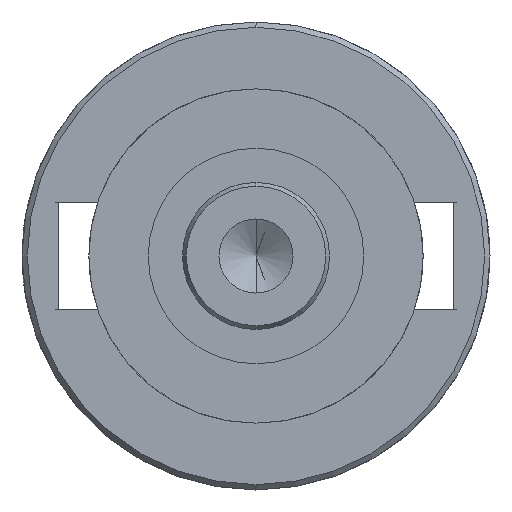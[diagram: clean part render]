
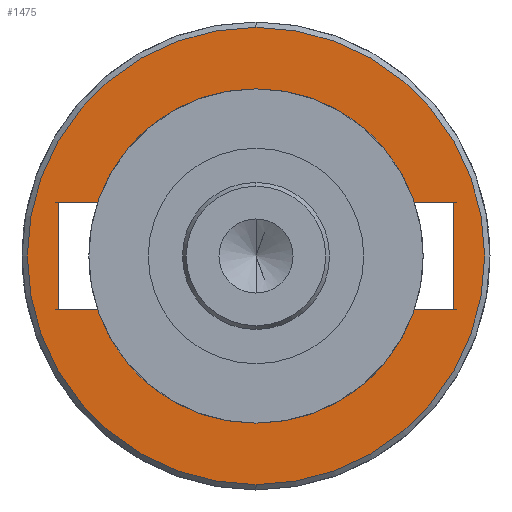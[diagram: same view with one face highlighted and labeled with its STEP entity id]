
A CAD part, left-side view. The second image highlights one B-rep face of the part: STEP entity #1475.
In plain terms, the highlighted planar face has unit normal (-1, 0, 0).
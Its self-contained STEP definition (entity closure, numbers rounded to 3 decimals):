
#129 = CARTESIAN_POINT ( 'NONE',  ( 9.976, 0., -25. ) ) ;
#151 = CARTESIAN_POINT ( 'NONE',  ( 9.976, 23.668, 8.05 ) ) ;
#152 = DIRECTION ( 'NONE',  ( 0., 0., 1. ) ) ;
#153 = DIRECTION ( 'NONE',  ( -1., 0., 0. ) ) ;
#154 = CARTESIAN_POINT ( 'NONE',  ( 9.976, 0., 0. ) ) ;
#155 = AXIS2_PLACEMENT_3D ( 'NONE', #154, #153, #152 ) ;
#156 = CIRCLE ( 'NONE', #155, 25. ) ;
#157 = CARTESIAN_POINT ( 'NONE',  ( 9.976, 0., 25. ) ) ;
#197 = CARTESIAN_POINT ( 'NONE',  ( 9.976, 0., 0. ) ) ;
#241 = CARTESIAN_POINT ( 'NONE',  ( 9.976, 0., 34.2 ) ) ;
#242 = DIRECTION ( 'NONE',  ( 0., 0., 1. ) ) ;
#243 = DIRECTION ( 'NONE',  ( -1., 0., 0. ) ) ;
#244 = AXIS2_PLACEMENT_3D ( 'NONE', #197, #243, #242 ) ;
#245 = CIRCLE ( 'NONE', #244, 34.2 ) ;
#248 = CARTESIAN_POINT ( 'NONE',  ( 9.976, 0., 0. ) ) ;
#249 = AXIS2_PLACEMENT_3D ( 'NONE', #248, #311, #310 ) ;
#254 = CIRCLE ( 'NONE', #249, 25. ) ;
#309 = CARTESIAN_POINT ( 'NONE',  ( 9.976, 23.668, -8.05 ) ) ;
#310 = DIRECTION ( 'NONE',  ( 0., 0., 1. ) ) ;
#311 = DIRECTION ( 'NONE',  ( -1., 0., 0. ) ) ;
#426 = CARTESIAN_POINT ( 'NONE',  ( 9.976, 0., -34.2 ) ) ;
#523 = DIRECTION ( 'NONE',  ( 0., 0., -1. ) ) ;
#524 = VECTOR ( 'NONE', #523, 1000. ) ;
#525 = CARTESIAN_POINT ( 'NONE',  ( 9.976, -29.474, 0. ) ) ;
#526 = LINE ( 'NONE', #525, #524 ) ;
#528 = LINE ( 'NONE', #581, #580 ) ;
#529 = DIRECTION ( 'NONE',  ( 0., 0., 1. ) ) ;
#530 = DIRECTION ( 'NONE',  ( -1., 0., 0. ) ) ;
#531 = CARTESIAN_POINT ( 'NONE',  ( 9.976, 25., 0. ) ) ;
#532 = AXIS2_PLACEMENT_3D ( 'NONE', #531, #530, #529 ) ;
#533 = PLANE ( 'NONE',  #532 ) ;
#534 = FACE_BOUND ( 'NONE', #1480, .T. ) ;
#535 = FACE_OUTER_BOUND ( 'NONE', #1476, .T. ) ;
#536 = DIRECTION ( 'NONE',  ( 0., 0., 1. ) ) ;
#537 = DIRECTION ( 'NONE',  ( -1., 0., 0. ) ) ;
#538 = CARTESIAN_POINT ( 'NONE',  ( 9.976, 0., 0. ) ) ;
#539 = AXIS2_PLACEMENT_3D ( 'NONE', #538, #537, #536 ) ;
#540 = CIRCLE ( 'NONE', #539, 25. ) ;
#541 = DIRECTION ( 'NONE',  ( 0., -1., 0. ) ) ;
#542 = VECTOR ( 'NONE', #541, 1000. ) ;
#543 = CARTESIAN_POINT ( 'NONE',  ( 9.976, 25., 8.05 ) ) ;
#544 = LINE ( 'NONE', #543, #542 ) ;
#545 = CARTESIAN_POINT ( 'NONE',  ( 9.976, 29.474, 8.05 ) ) ;
#546 = DIRECTION ( 'NONE',  ( 0., 0., 1. ) ) ;
#547 = VECTOR ( 'NONE', #546, 1000. ) ;
#548 = CARTESIAN_POINT ( 'NONE',  ( 9.976, 29.474, 0. ) ) ;
#549 = LINE ( 'NONE', #548, #547 ) ;
#550 = CARTESIAN_POINT ( 'NONE',  ( 9.976, 29.474, -8.05 ) ) ;
#551 = DIRECTION ( 'NONE',  ( 0., -1., 0. ) ) ;
#552 = VECTOR ( 'NONE', #551, 1000. ) ;
#553 = CARTESIAN_POINT ( 'NONE',  ( 9.976, 25., -8.05 ) ) ;
#554 = LINE ( 'NONE', #553, #552 ) ;
#555 = DIRECTION ( 'NONE',  ( 0., 1., 0. ) ) ;
#556 = VECTOR ( 'NONE', #555, 1000. ) ;
#557 = CARTESIAN_POINT ( 'NONE',  ( 9.976, -25., -8.05 ) ) ;
#558 = LINE ( 'NONE', #557, #556 ) ;
#571 = CARTESIAN_POINT ( 'NONE',  ( 9.976, -23.668, -8.05 ) ) ;
#572 = DIRECTION ( 'NONE',  ( 0., 0., 1. ) ) ;
#573 = DIRECTION ( 'NONE',  ( -1., 0., 0. ) ) ;
#574 = CARTESIAN_POINT ( 'NONE',  ( 9.976, 0., 0. ) ) ;
#575 = AXIS2_PLACEMENT_3D ( 'NONE', #574, #573, #572 ) ;
#576 = CIRCLE ( 'NONE', #575, 25. ) ;
#577 = CARTESIAN_POINT ( 'NONE',  ( 9.976, -29.474, -8.05 ) ) ;
#578 = CARTESIAN_POINT ( 'NONE',  ( 9.976, -29.474, 8.05 ) ) ;
#579 = DIRECTION ( 'NONE',  ( 0., 1., 0. ) ) ;
#580 = VECTOR ( 'NONE', #579, 1000. ) ;
#581 = CARTESIAN_POINT ( 'NONE',  ( 9.976, -25., 8.05 ) ) ;
#582 = DIRECTION ( 'NONE',  ( 0., 0., 1. ) ) ;
#583 = DIRECTION ( 'NONE',  ( -1., 0., 0. ) ) ;
#584 = CARTESIAN_POINT ( 'NONE',  ( 9.976, 0., 0. ) ) ;
#585 = AXIS2_PLACEMENT_3D ( 'NONE', #584, #583, #582 ) ;
#586 = CIRCLE ( 'NONE', #585, 34.2 ) ;
#611 = CARTESIAN_POINT ( 'NONE',  ( 9.976, -23.668, 8.05 ) ) ;
#1240 = VERTEX_POINT ( 'NONE', #129 ) ;
#1254 = VERTEX_POINT ( 'NONE', #157 ) ;
#1256 = EDGE_CURVE ( 'NONE', #1254, #1257, #156, .T. ) ;
#1257 = VERTEX_POINT ( 'NONE', #151 ) ;
#1289 = EDGE_CURVE ( 'NONE', #1290, #1397, #245, .T. ) ;
#1290 = VERTEX_POINT ( 'NONE', #241 ) ;
#1323 = EDGE_CURVE ( 'NONE', #1324, #1240, #254, .T. ) ;
#1324 = VERTEX_POINT ( 'NONE', #309 ) ;
#1397 = VERTEX_POINT ( 'NONE', #426 ) ;
#1431 = ORIENTED_EDGE ( 'NONE', *, *, #1256, .F. ) ;
#1432 = ORIENTED_EDGE ( 'NONE', *, *, #1472, .F. ) ;
#1445 = EDGE_CURVE ( 'NONE', #1483, #1485, #526, .T. ) ;
#1446 = ORIENTED_EDGE ( 'NONE', *, *, #1461, .T. ) ;
#1461 = EDGE_CURVE ( 'NONE', #1485, #1490, #558, .T. ) ;
#1462 = ORIENTED_EDGE ( 'NONE', *, *, #1489, .F. ) ;
#1463 = ORIENTED_EDGE ( 'NONE', *, *, #1323, .F. ) ;
#1464 = ORIENTED_EDGE ( 'NONE', *, *, #1465, .F. ) ;
#1465 = EDGE_CURVE ( 'NONE', #1466, #1324, #554, .T. ) ;
#1466 = VERTEX_POINT ( 'NONE', #550 ) ;
#1467 = ORIENTED_EDGE ( 'NONE', *, *, #1468, .T. ) ;
#1468 = EDGE_CURVE ( 'NONE', #1466, #1469, #549, .T. ) ;
#1469 = VERTEX_POINT ( 'NONE', #545 ) ;
#1470 = ORIENTED_EDGE ( 'NONE', *, *, #1471, .T. ) ;
#1471 = EDGE_CURVE ( 'NONE', #1469, #1257, #544, .T. ) ;
#1472 = EDGE_CURVE ( 'NONE', #1499, #1254, #540, .T. ) ;
#1475 = ADVANCED_FACE ( 'NONE', ( #535, #534 ), #533, .T. ) ;
#1476 = EDGE_LOOP ( 'NONE', ( #1477, #1479 ) ) ;
#1477 = ORIENTED_EDGE ( 'NONE', *, *, #1478, .T. ) ;
#1478 = EDGE_CURVE ( 'NONE', #1397, #1290, #586, .T. ) ;
#1479 = ORIENTED_EDGE ( 'NONE', *, *, #1289, .T. ) ;
#1480 = EDGE_LOOP ( 'NONE', ( #1481, #1484, #1446, #1462, #1463, #1464, #1467, #1470, #1431, #1432 ) ) ;
#1481 = ORIENTED_EDGE ( 'NONE', *, *, #1482, .F. ) ;
#1482 = EDGE_CURVE ( 'NONE', #1483, #1499, #528, .T. ) ;
#1483 = VERTEX_POINT ( 'NONE', #578 ) ;
#1484 = ORIENTED_EDGE ( 'NONE', *, *, #1445, .T. ) ;
#1485 = VERTEX_POINT ( 'NONE', #577 ) ;
#1489 = EDGE_CURVE ( 'NONE', #1240, #1490, #576, .T. ) ;
#1490 = VERTEX_POINT ( 'NONE', #571 ) ;
#1499 = VERTEX_POINT ( 'NONE', #611 ) ;
